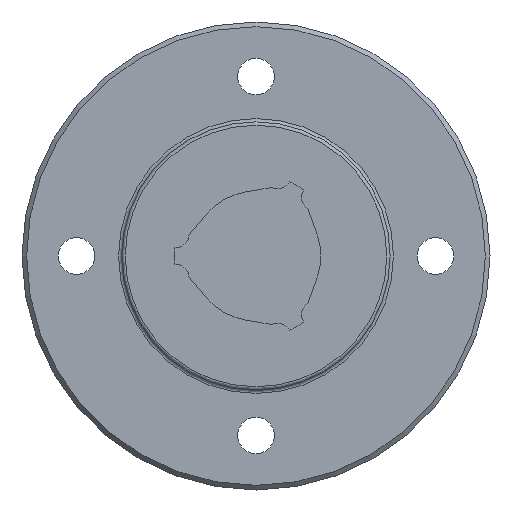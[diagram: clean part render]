
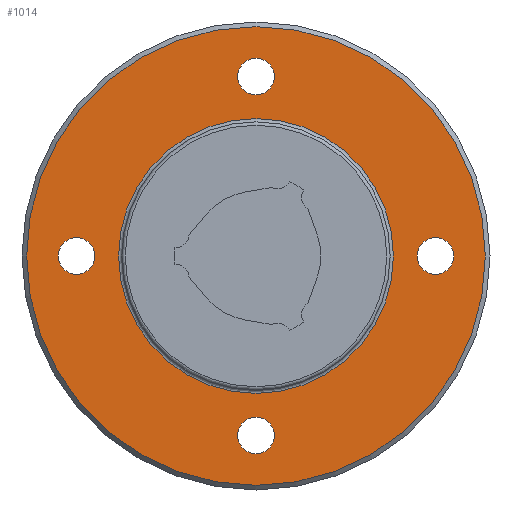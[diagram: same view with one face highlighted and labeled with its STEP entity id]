
A CAD part, left-side view. The second image highlights one B-rep face of the part: STEP entity #1014.
In plain terms, the highlighted planar face has unit normal (-1, 0, 0).
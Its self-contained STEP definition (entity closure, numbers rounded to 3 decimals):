
#49=PLANE('',#1146);
#319=ORIENTED_EDGE('',*,*,#534,.F.);
#320=ORIENTED_EDGE('',*,*,#535,.T.);
#321=ORIENTED_EDGE('',*,*,#536,.T.);
#322=ORIENTED_EDGE('',*,*,#537,.T.);
#323=ORIENTED_EDGE('',*,*,#538,.T.);
#324=ORIENTED_EDGE('',*,*,#533,.T.);
#533=EDGE_CURVE('',#651,#651,#730,.T.);
#534=EDGE_CURVE('',#652,#652,#731,.T.);
#535=EDGE_CURVE('',#653,#653,#732,.T.);
#536=EDGE_CURVE('',#654,#654,#733,.T.);
#537=EDGE_CURVE('',#655,#655,#734,.T.);
#538=EDGE_CURVE('',#656,#656,#735,.T.);
#651=VERTEX_POINT('',#1754);
#652=VERTEX_POINT('',#1757);
#653=VERTEX_POINT('',#1759);
#654=VERTEX_POINT('',#1761);
#655=VERTEX_POINT('',#1763);
#656=VERTEX_POINT('',#1765);
#730=CIRCLE('',#1145,20.675);
#731=CIRCLE('',#1147,34.5);
#732=CIRCLE('',#1148,2.75);
#733=CIRCLE('',#1149,2.75);
#734=CIRCLE('',#1150,2.75);
#735=CIRCLE('',#1151,2.75);
#795=EDGE_LOOP('',(#319));
#796=EDGE_LOOP('',(#320));
#797=EDGE_LOOP('',(#321));
#798=EDGE_LOOP('',(#322));
#799=EDGE_LOOP('',(#323));
#800=EDGE_LOOP('',(#324));
#891=FACE_BOUND('',#795,.T.);
#892=FACE_BOUND('',#796,.T.);
#893=FACE_BOUND('',#797,.T.);
#894=FACE_BOUND('',#798,.T.);
#895=FACE_BOUND('',#799,.T.);
#896=FACE_BOUND('',#800,.T.);
#1014=ADVANCED_FACE('',(#891,#892,#893,#894,#895,#896),#49,.F.);
#1145=AXIS2_PLACEMENT_3D('',#1753,#1388,#1389);
#1146=AXIS2_PLACEMENT_3D('',#1755,#1390,#1391);
#1147=AXIS2_PLACEMENT_3D('',#1756,#1392,#1393);
#1148=AXIS2_PLACEMENT_3D('',#1758,#1394,#1395);
#1149=AXIS2_PLACEMENT_3D('',#1760,#1396,#1397);
#1150=AXIS2_PLACEMENT_3D('',#1762,#1398,#1399);
#1151=AXIS2_PLACEMENT_3D('',#1764,#1400,#1401);
#1388=DIRECTION('',(1.,0.,0.));
#1389=DIRECTION('',(0.,0.,-1.));
#1390=DIRECTION('',(1.,0.,0.));
#1391=DIRECTION('',(0.,0.,-1.));
#1392=DIRECTION('',(1.,0.,0.));
#1393=DIRECTION('',(0.,0.,-1.));
#1394=DIRECTION('',(1.,0.,0.));
#1395=DIRECTION('',(0.,0.,-1.));
#1396=DIRECTION('',(1.,0.,0.));
#1397=DIRECTION('',(0.,0.,-1.));
#1398=DIRECTION('',(1.,0.,0.));
#1399=DIRECTION('',(0.,0.,-1.));
#1400=DIRECTION('',(1.,0.,0.));
#1401=DIRECTION('',(0.,0.,-1.));
#1753=CARTESIAN_POINT('',(28.,0.,0.));
#1754=CARTESIAN_POINT('',(28.,0.,-20.675));
#1755=CARTESIAN_POINT('',(28.,20.675,0.));
#1756=CARTESIAN_POINT('',(28.,0.,0.));
#1757=CARTESIAN_POINT('',(28.,0.,-34.5));
#1758=CARTESIAN_POINT('',(28.,27.,0.));
#1759=CARTESIAN_POINT('',(28.,27.,-2.75));
#1760=CARTESIAN_POINT('',(28.,0.,-27.));
#1761=CARTESIAN_POINT('',(28.,0.,-29.75));
#1762=CARTESIAN_POINT('',(28.,0.,27.));
#1763=CARTESIAN_POINT('',(28.,0.,24.25));
#1764=CARTESIAN_POINT('',(28.,-27.,0.));
#1765=CARTESIAN_POINT('',(28.,-27.,-2.75));
